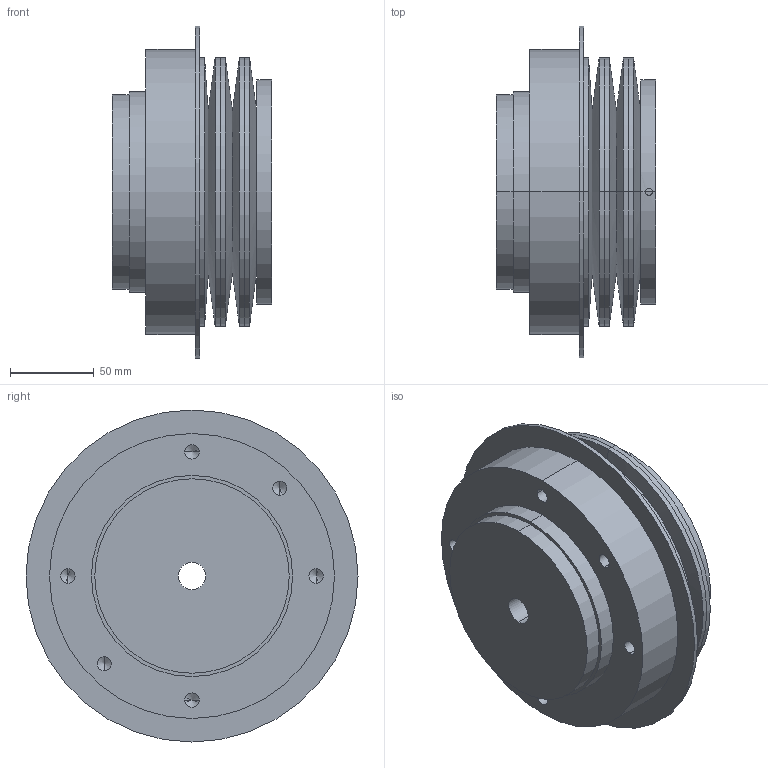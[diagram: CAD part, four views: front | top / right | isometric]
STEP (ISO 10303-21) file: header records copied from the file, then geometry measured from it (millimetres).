
FILE_DESCRIPTION (( 'STEP AP203' ), '1' );
FILE_NAME ('ST11F-120B.STEP', '2009-09-30T17:41:46', ( 'USER' ), ( 'HOME' ), 'SwSTEP 2.0', 'SolidWorks 2007', '' );
FILE_SCHEMA (( 'CONFIG_CONTROL_DESIGN' ));
Length unit declared in the file: millimetre
Products named in the file (1): ST11F-120B
Bounding box: 95 x 198 x 198 mm (x, y, z)
Volume: 1514683.4 mm3; surface area: 270707.1 mm2
Topology: 7 solids, 7 shells, 91 faces, 204 edges, 114 vertices
Faces by surface type: cylinder 52, cone 30, plane 9
Entity records: 2739 total; most frequent: CARTESIAN_POINT 634, DIRECTION 460, ORIENTED_EDGE 384, EDGE_CURVE 192, AXIS2_PLACEMENT_3D 188, VERTEX_POINT 114, EDGE_LOOP 108, CIRCLE 96
